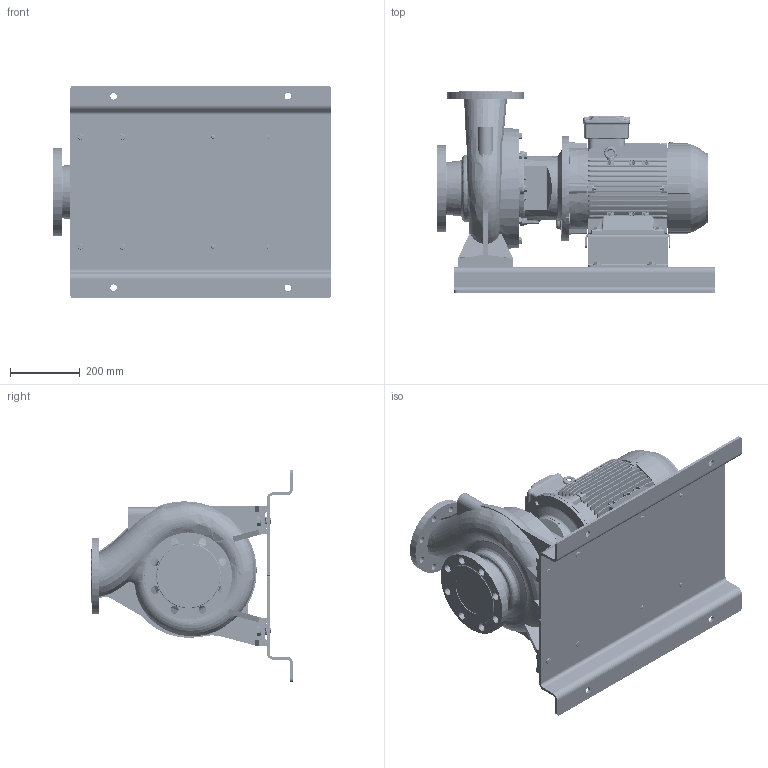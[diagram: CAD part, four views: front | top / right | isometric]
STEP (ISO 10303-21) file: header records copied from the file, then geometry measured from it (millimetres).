
FILE_DESCRIPTION (( 'STEP AP214' ), '1' );
FILE_NAME ('GSD4 100-250_7.5_(132M)_W21_BP.STEP', '2026-05-08T06:02:21', ( '' ), ( '' ), 'SwSTEP 2.0', 'SolidWorks 2024', '' );
FILE_SCHEMA (( 'AUTOMOTIVE_DESIGN' ));
Length unit declared in the file: millimetre
Products named in the file (10): N7S6 GSDA-762 F1-1832942-00; 100-250-132M_ﾃﾞﾌｫﾙﾄ; Parametric bolt_SFT-A351B; 132M ALIE3_W21T_B35; GSD4 100-250_7.5_(132M)_W21_BP; Parametric bolt_SFT-A253B; Parametric Flat Washer_M12; 140_178 x 93 BP - CGSDA-5244; Parametric Flat Washer_M10; Parametric bolt_SFT-A249B
Assembly tree (28 placements, depth 2):
  GSD4 100-250_7.5_(132M)_W21_BP
    100-250-132M_ﾃﾞﾌｫﾙﾄ
    N7S6 GSDA-762 F1-1832942-00
    140_178 x 93 BP - CGSDA-5244
    Parametric bolt_SFT-A249B  x4
    Parametric bolt_SFT-A253B  x4
    Parametric bolt_SFT-A351B  x4
    Parametric Flat Washer_M12  x4
    Parametric Flat Washer_M10  x8
    132M ALIE3_W21T_B35
Bounding box: 800 x 580 x 610 mm (x, y, z)
Volume: 45915292.9 mm3; surface area: 3578123.8 mm2
Topology: 31 solids, 31 shells, 5240 faces, 13608 edges, 8771 vertices
Faces by surface type: plane 2993, cylinder 1321, bspline 310, torus 307, cone 277, sphere 32
Entity records: 193431 total; most frequent: CARTESIAN_POINT 79623, ORIENTED_EDGE 24642, DIRECTION 21969, EDGE_CURVE 12321, LINE 7989, VECTOR 7989, VERTEX_POINT 7952, AXIS2_PLACEMENT_3D 6990
